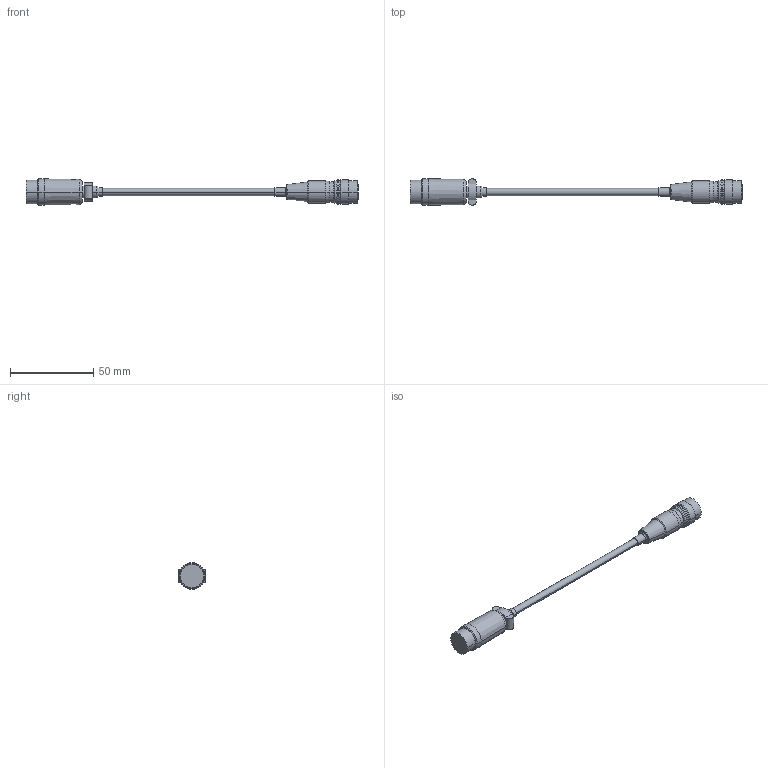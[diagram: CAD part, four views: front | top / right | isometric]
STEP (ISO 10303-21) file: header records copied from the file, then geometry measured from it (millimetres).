
FILE_DESCRIPTION(('Creo Elements/Direct Modeling STEP Export'),'2;1');
FILE_NAME('21HZA193_変換ケーブル(P).stp','2021-06-15T11:18:33',(''),(''),'Creo Elements/Direct Modeling STEP processor for AP214 (Solid Model)','Creo Elements/Direct Modeling 18.1I 13-Aug-2016 (C) Parametric Technology GmbH','');
FILE_SCHEMA(('AUTOMOTIVE_DESIGN { 1 0 10303 214 1 1 1 1 }'));
Length unit declared in the file: millimetre
Products named in the file (2): 21HZA193
Assembly tree (1 placements, depth 2):
  21HZA193
    21HZA193
Bounding box: 200 x 16 x 16 mm (x, y, z)
Volume: 14317.1 mm3; surface area: 5995.5 mm2
Topology: 1 solids, 1 shells, 84 faces, 172 edges, 102 vertices
Faces by surface type: cylinder 34, cone 20, plane 18, torus 12
Entity records: 2020 total; most frequent: DIRECTION 354, ORIENTED_EDGE 344, CARTESIAN_POINT 311, EDGE_CURVE 172, AXIS2_PLACEMENT_3D 145, VERTEX_POINT 102, EDGE_LOOP 96, FACE_OUTER_BOUND 84
